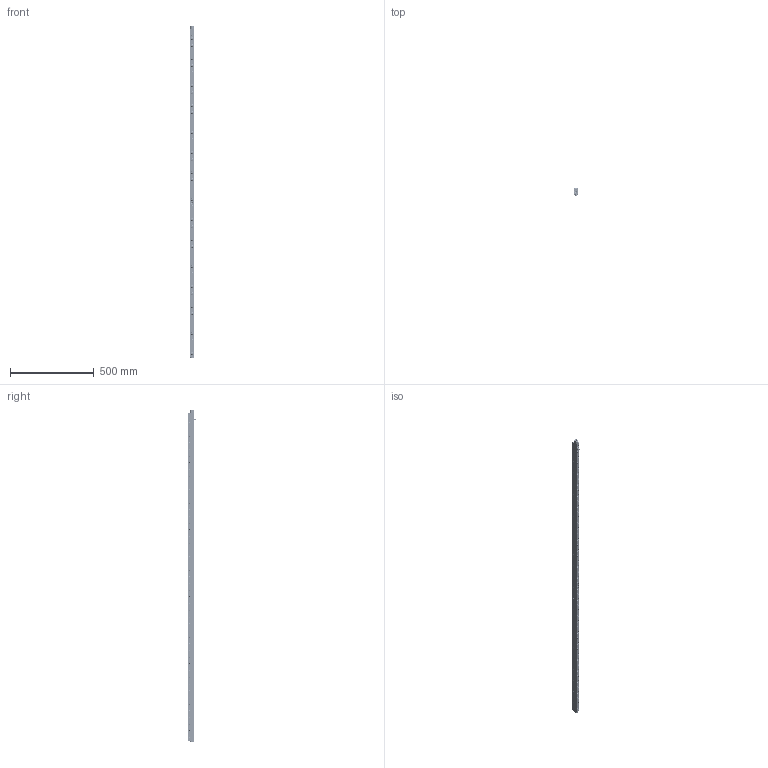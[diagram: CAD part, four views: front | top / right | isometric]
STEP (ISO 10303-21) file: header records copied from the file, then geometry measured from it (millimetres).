
FILE_DESCRIPTION(/* description */ ('EHR22-49'),/* implementation_level */ '2;1');
FILE_NAME(/* name */ 'S:\EASCN Vault\Designs\Standard Part\DIE LIFTERS\EHR\EHR- 3D step\EHR22 - 3D step complete serie\EHR22-49.stp',/* time_stamp */ '2019-10-29T13:27:35+08:00',/* author */ ('yue.yang'),/* organization */ (''),/* preprocessor_version */ 'ST-DEVELOPER v17',/* originating_system */ 'Autodesk Inventor 2019',/* authorisation */ '');
FILE_SCHEMA (('AUTOMOTIVE_DESIGN { 1 0 10303 214 3 1 1 }'));
Products named in the file (2): EHR22-49; EHR22-49_Substitute_1
Assembly tree (1 placements, depth 2):
  EHR22-49
    EHR22-49_Substitute_1
Bounding box: 21.8 x 48.05 x 1982 mm (x, y, z)
Volume: 1218492.6 mm3; surface area: 495890.6 mm2
Topology: 165 solids, 165 shells, 2645 faces, 7451 edges, 5179 vertices
Faces by surface type: cylinder 922, plane 614, cone 560, torus 449, sphere 100
Full cylindrical faces by diameter (mm): 2.459 x16, 3 x9, 3.2 x8, 4 x20, 5 x147, 6 x59, 7.5 x2, 8.566 x1, 10 x11, 11 x49, 12.5 x98, 13.4 x49, 13.8 x49, 15.95 x98, 16 x98
Entity records: 96849 total; most frequent: CARTESIAN_POINT 21676, DIRECTION 16830, ORIENTED_EDGE 14752, AXIS2_PLACEMENT_3D 7519, EDGE_CURVE 7376, VERTEX_POINT 5179, CIRCLE 4871, EDGE_LOOP 3119
